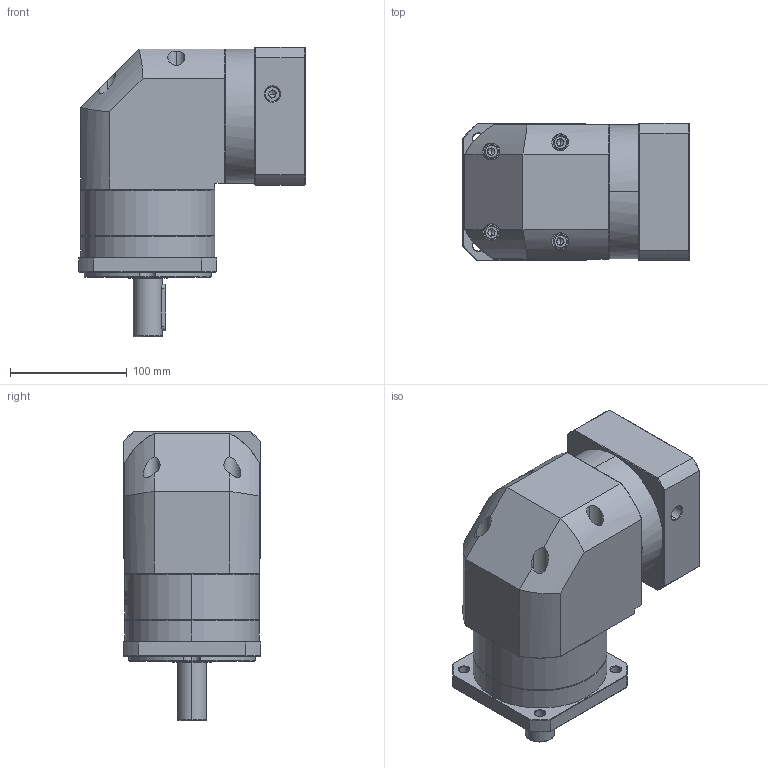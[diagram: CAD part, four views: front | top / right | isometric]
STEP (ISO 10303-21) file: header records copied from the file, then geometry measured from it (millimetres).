
FILE_DESCRIPTION (( 'STEP AP214' ), '1' );
FILE_NAME ('ZFR120A-D25-L1-P2-22-95-115-M8.step', '2023-08-27T08:01:40', ( '' ), ( '' ), 'SwSTEP 2.0', 'SolidWorks 2016', '' );
FILE_SCHEMA (( 'AUTOMOTIVE_DESIGN' ));
Length unit declared in the file: millimetre
Products named in the file (1): ZFR120A-D25-L1-P2-22-95-115-M8
Bounding box: 193.9 x 118 x 248 mm (x, y, z)
Volume: 2895682.1 mm3; surface area: 243512.1 mm2
Topology: 6 solids, 6 shells, 2266 faces, 5975 edges, 3814 vertices
Faces by surface type: plane 1061, cylinder 434, bspline 425, cone 338, torus 8
Entity records: 124147 total; most frequent: CARTESIAN_POINT 48749, ORIENTED_EDGE 11890, DIRECTION 8619, EDGE_CURVE 5945, VERTEX_POINT 3814, VECTOR 3159, LINE 3159, AXIS2_PLACEMENT_3D 2730
